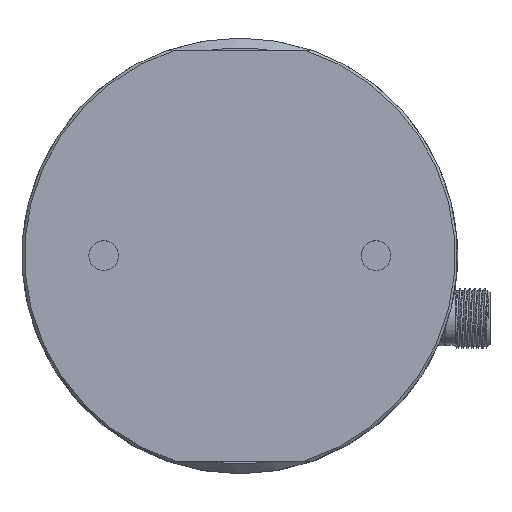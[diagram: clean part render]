
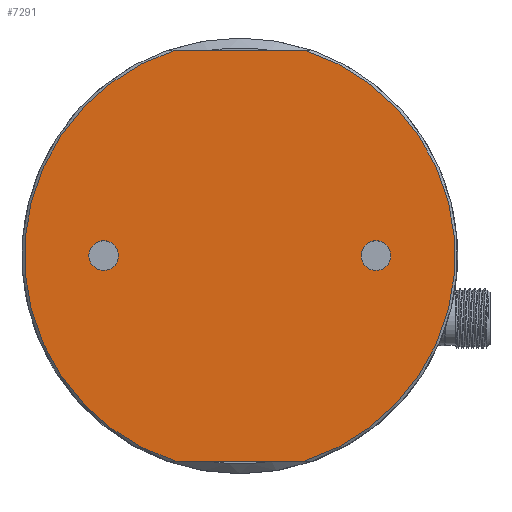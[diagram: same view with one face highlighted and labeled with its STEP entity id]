
A CAD part, top view. The second image highlights one B-rep face of the part: STEP entity #7291.
In plain terms, the highlighted planar face has unit normal (0, 0, 1).
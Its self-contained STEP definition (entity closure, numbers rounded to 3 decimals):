
#138 = AXIS2_PLACEMENT_3D ( 'NONE', #5739, #4785, #8255 ) ;
#1414 = ORIENTED_EDGE ( 'NONE', *, *, #23770, .F. ) ;
#1448 = DIRECTION ( 'NONE',  ( 0., 0., 1. ) ) ;
#3287 = DIRECTION ( 'NONE',  ( 1., 0., 0. ) ) ;
#3540 = FACE_OUTER_BOUND ( 'NONE', #10659, .T. ) ;
#3570 = VERTEX_POINT ( 'NONE', #24237 ) ;
#4785 = DIRECTION ( 'NONE',  ( 0., 0., 1. ) ) ;
#5187 = CIRCLE ( 'NONE', #31470, 43.5 ) ;
#5206 = EDGE_CURVE ( 'NONE', #19363, #19352, #5187, .T. ) ;
#5739 = CARTESIAN_POINT ( 'NONE',  ( -27.5, 0., 45. ) ) ;
#5924 = VECTOR ( 'NONE', #13641, 1000. ) ;
#6510 = ORIENTED_EDGE ( 'NONE', *, *, #11396, .F. ) ;
#6548 = AXIS2_PLACEMENT_3D ( 'NONE', #28898, #26352, #28732 ) ;
#7291 = ADVANCED_FACE ( 'NONE', ( #11097, #13440, #3540 ), #13276, .T. ) ;
#8255 = DIRECTION ( 'NONE',  ( 1., 0., 0. ) ) ;
#8890 = VERTEX_POINT ( 'NONE', #18803 ) ;
#9339 = AXIS2_PLACEMENT_3D ( 'NONE', #32893, #24661, #32403 ) ;
#10659 = EDGE_LOOP ( 'NONE', ( #29662, #21707, #6510, #29442 ) ) ;
#11097 = FACE_BOUND ( 'NONE', #32523, .T. ) ;
#11161 = VERTEX_POINT ( 'NONE', #19058 ) ;
#11396 = EDGE_CURVE ( 'NONE', #19363, #11443, #28816, .T. ) ;
#11443 = VERTEX_POINT ( 'NONE', #30986 ) ;
#11982 = DIRECTION ( 'NONE',  ( 0., 0., 1. ) ) ;
#12144 = DIRECTION ( 'NONE',  ( 1., 0., 0. ) ) ;
#13276 = PLANE ( 'NONE',  #6548 ) ;
#13365 = VECTOR ( 'NONE', #3287, 1000. ) ;
#13440 = FACE_BOUND ( 'NONE', #22146, .T. ) ;
#13641 = DIRECTION ( 'NONE',  ( -1., 0., 0. ) ) ;
#13885 = CARTESIAN_POINT ( 'NONE',  ( -13.038, 41.5, 45. ) ) ;
#14624 = CIRCLE ( 'NONE', #138, 3. ) ;
#15153 = AXIS2_PLACEMENT_3D ( 'NONE', #27903, #11982, #12144 ) ;
#15397 = EDGE_CURVE ( 'NONE', #3570, #11443, #23820, .T. ) ;
#15996 = LINE ( 'NONE', #26054, #5924 ) ;
#18803 = CARTESIAN_POINT ( 'NONE',  ( 30.5, 0., 45. ) ) ;
#19058 = CARTESIAN_POINT ( 'NONE',  ( -24.5, 0., 45. ) ) ;
#19352 = VERTEX_POINT ( 'NONE', #26644 ) ;
#19363 = VERTEX_POINT ( 'NONE', #13885 ) ;
#21707 = ORIENTED_EDGE ( 'NONE', *, *, #15397, .T. ) ;
#21839 = EDGE_CURVE ( 'NONE', #3570, #19352, #15996, .T. ) ;
#22146 = EDGE_LOOP ( 'NONE', ( #26251 ) ) ;
#23770 = EDGE_CURVE ( 'NONE', #8890, #8890, #31784, .T. ) ;
#23820 = CIRCLE ( 'NONE', #9339, 43.5 ) ;
#24237 = CARTESIAN_POINT ( 'NONE',  ( 13.038, -41.5, 45. ) ) ;
#24661 = DIRECTION ( 'NONE',  ( 0., 0., 1. ) ) ;
#26054 = CARTESIAN_POINT ( 'NONE',  ( -55.114, -41.5, 45. ) ) ;
#26251 = ORIENTED_EDGE ( 'NONE', *, *, #32185, .F. ) ;
#26352 = DIRECTION ( 'NONE',  ( 0., 0., 1. ) ) ;
#26448 = CARTESIAN_POINT ( 'NONE',  ( -32.875, 41.5, 45. ) ) ;
#26644 = CARTESIAN_POINT ( 'NONE',  ( -13.038, -41.5, 45. ) ) ;
#26955 = CARTESIAN_POINT ( 'NONE',  ( 0., 0., 45. ) ) ;
#27903 = CARTESIAN_POINT ( 'NONE',  ( 27.5, 0., 45. ) ) ;
#28732 = DIRECTION ( 'NONE',  ( 1., 0., 0. ) ) ;
#28816 = LINE ( 'NONE', #26448, #13365 ) ;
#28898 = CARTESIAN_POINT ( 'NONE',  ( 0., 0., 45. ) ) ;
#29442 = ORIENTED_EDGE ( 'NONE', *, *, #5206, .T. ) ;
#29662 = ORIENTED_EDGE ( 'NONE', *, *, #21839, .F. ) ;
#30986 = CARTESIAN_POINT ( 'NONE',  ( 13.038, 41.5, 45. ) ) ;
#31470 = AXIS2_PLACEMENT_3D ( 'NONE', #26955, #1448, #32166 ) ;
#31784 = CIRCLE ( 'NONE', #15153, 3. ) ;
#32166 = DIRECTION ( 'NONE',  ( 1., 0., 0. ) ) ;
#32185 = EDGE_CURVE ( 'NONE', #11161, #11161, #14624, .T. ) ;
#32403 = DIRECTION ( 'NONE',  ( 1., 0., 0. ) ) ;
#32523 = EDGE_LOOP ( 'NONE', ( #1414 ) ) ;
#32893 = CARTESIAN_POINT ( 'NONE',  ( 0., 0., 45. ) ) ;
